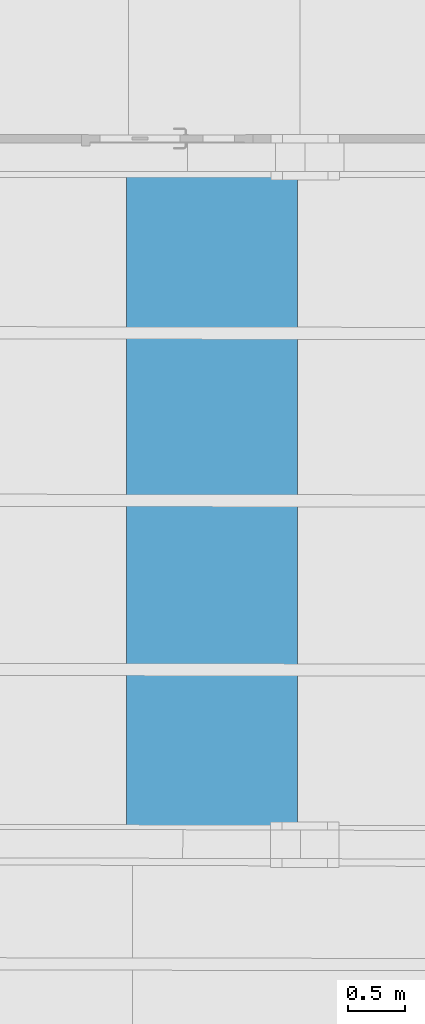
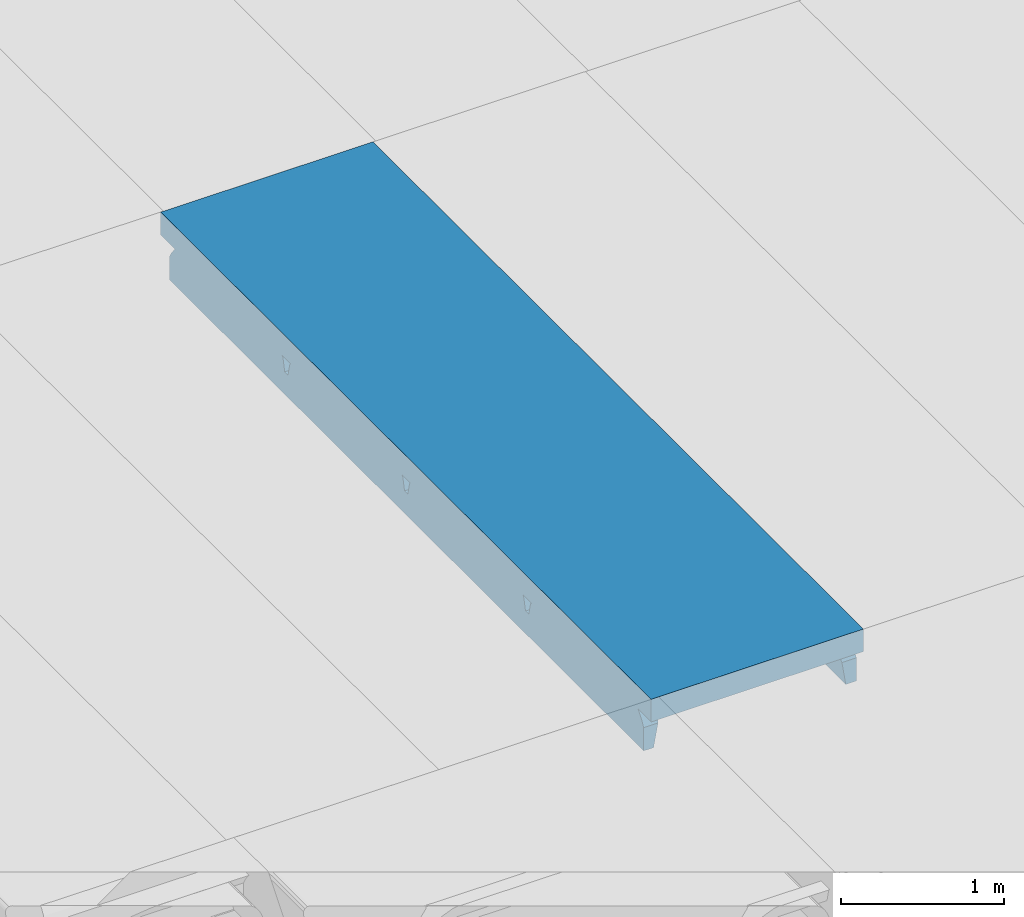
# One storey, part 33 of 301: 1 beam.
"""IFC2X3 building model written with IfcOpenShell, lengths in millimetres."""

from ifc_helpers import new_model, entity, si_unit, converted_unit, derived_unit, money_unit, direction, frame, origin_with_axes, place, context, subcontext, project, spatial, faceted_brep, material, type_object, element, save


model = new_model("IFC2X3")

# Units and contexts
model_context = context("Model", 3, precision=0.01, world=origin_with_axes(), true_north=direction((0.0, 1.0)))
body_context = subcontext(model_context, "Body", "Model", "MODEL_VIEW")
ifc_project = project(units=[si_unit("LENGTHUNIT", "METRE", prefix="MILLI"), si_unit("AREAUNIT", "SQUARE_METRE"), si_unit("VOLUMEUNIT", "CUBIC_METRE"), converted_unit("PLANEANGLEUNIT", "DEGREE", entity("IfcPlaneAngleMeasure", 0.0174532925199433), si_unit("PLANEANGLEUNIT", "RADIAN"), dimensions=[0, 0, 0, 0, 0, 0, 0]), money_unit("EUR"), converted_unit("TIMEUNIT", "Year", entity("IfcTimeMeasure", 31557600.0), si_unit("TIMEUNIT", "SECOND"), dimensions=[0, 0, 1, 0, 0, 0, 0]), si_unit("MASSUNIT", "GRAM", prefix="KILO"), si_unit("THERMODYNAMICTEMPERATUREUNIT", "DEGREE_CELSIUS"), si_unit("LUMINOUSINTENSITYUNIT", "LUMEN"), si_unit("ENERGYUNIT", "JOULE", prefix="MEGA"), derived_unit("THERMALCONDUCTANCEUNIT", [(si_unit("POWERUNIT", "WATT"), 1), (si_unit("LENGTHUNIT", "METRE"), -1), (si_unit("THERMODYNAMICTEMPERATUREUNIT", "KELVIN"), -1)]), derived_unit("SPECIFICHEATCAPACITYUNIT", [(si_unit("ENERGYUNIT", "JOULE"), 1), (si_unit("MASSUNIT", "GRAM", prefix="KILO"), -1), (si_unit("THERMODYNAMICTEMPERATUREUNIT", "KELVIN"), -1)]), derived_unit("MASSDENSITYUNIT", [(si_unit("MASSUNIT", "GRAM", prefix="KILO"), 1), (si_unit("VOLUMEUNIT", "CUBIC_METRE"), -1)])], contexts=[model_context])

# Site, building, storey
site_placement = place(None, frame((0.0, 0.0, 8650.0), z_axis=(0.0, 0.0, 1.0), x_axis=(1.0, 0.0, 0.0)))
site = spatial("IfcSite", under=ifc_project, at=site_placement, Name="43301:001:0844", CompositionType="ELEMENT")
building_placement = place(site_placement, origin_with_axes())
building = spatial("IfcBuilding", under=site, at=building_placement, Name="Kuressaare Ametikooli tuulikute mehaanikute õppekorpus", CompositionType="ELEMENT")
storey_placement = place(building_placement, origin_with_axes())
storey = spatial("IfcBuildingStorey", under=building, at=storey_placement, Name="1.korrus", CompositionType="ELEMENT", Elevation=0.0)

# Beam
ifc_material = material(Name="GENEERILINE - KONSTRUKTRIOON")
beam_type = type_object("IfcBeamType", Name="Precast Double Tee 2 1500 x 440", PredefinedType="NOTDEFINED")
beam_placement = place(storey_placement, frame((94955.87775377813, 50086.65261783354, 7100.0), z_axis=(0.0, 0.0, 1.0), x_axis=(-1.0, 0.0, 0.0)))
element("IfcBeam", 1, at=beam_placement, inside=storey, type_object=beam_type, material=ifc_material, context=body_context, shape_type="Brep", body=[
    faceted_brep([(-750.0, 177.0168148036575, -169.8234995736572), (-750.0, 0.9527585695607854, -169.8234995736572), (-750.0, 0.9527585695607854, 0.0), (-750.0, 6001.50033195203, 0.0), (-750.0, 6001.50033195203, -168.9999999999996), (-750.0, 5847.728794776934, -168.9999999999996), (-750.0, 5858.691405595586, -180.5328579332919), (-750.0, 5890.364064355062, -221.5483087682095), (-750.0, 5915.956201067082, -266.6089685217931), (-750.0, 5915.956726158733, -440.0001340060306), (-750.0, 108.789275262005, -440.0001340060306), (-750.0, 108.7897978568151, -267.4324680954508), (-750.0, 134.3817885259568, -222.3718083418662), (-750.0, 166.054266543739, -181.3563575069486), (-750.0, 1488.181398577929, -169.8234995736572), (-750.0, 1496.380189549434, -175.3977593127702), (-750.0, 1500.95482945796, -184.1935020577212), (-750.0, 1521.69577680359, -271.7709778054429), (-750.0, 1561.695830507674, -271.7709778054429), (-750.0, 1582.43581608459, -184.1936973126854), (-750.0, 1587.010435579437, -175.3978342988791), (-750.0, 1595.209293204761, -169.8234995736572), (-750.0, 2962.220889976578, -175.3977593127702), (-750.0, 2966.795529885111, -184.1935020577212), (-750.0, 2987.536477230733, -271.7709778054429), (-750.0, 3027.536530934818, -271.7709778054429), (-750.0, 3048.276516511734, -184.1936973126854), (-750.0, 3052.85113600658, -175.3978342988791), (-750.0, 3061.049993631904, -169.8234995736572), (-750.0, 2954.022099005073, -169.8234995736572), (-750.0, 4446.887829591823, -184.1935020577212), (-750.0, 4467.628776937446, -271.7709778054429), (-750.0, 4507.628830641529, -271.7709778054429), (-750.0, 4528.368816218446, -184.1936973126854), (-750.0, 4532.943435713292, -175.3978342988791), (-750.0, 4541.142293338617, -169.8234995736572), (-750.0, 4434.114398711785, -169.8234995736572), (-750.0, 4442.31318968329, -175.3977593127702), (-584.2531439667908, 0.9527585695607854, -169.8234995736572), (-604.2531439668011, 0.9527585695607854, -169.8234995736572), (-584.2531439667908, 176.9705397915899, -169.8234995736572), (729.9999999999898, 0.9527585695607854, -169.8234995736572), (729.9999999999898, 0.9527585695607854, 0.0), (566.8200850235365, 0.9527585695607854, -169.8234995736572), (586.8200850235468, 0.9527585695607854, -169.8234995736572), (729.9999999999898, 0.0, 0.0), (750.0, 0.0, 0.0), (750.0, 6001.50033195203, 0.0), (750.0, 6001.50033195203, -168.9999999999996), (750.0, 5842.644004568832, -168.9999999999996), (620.4148263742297, 5854.045891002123, -180.5328579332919), (620.1516209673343, 5853.763810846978, -180.2351660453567), (604.4404036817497, 5845.963875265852, -171.9734684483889), (586.8200850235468, 5843.979942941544, -169.8234995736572), (-584.2531439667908, 5847.949717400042, -169.8234995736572), (-604.310838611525, 5851.517931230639, -173.5057932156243), (-615.9100461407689, 5858.236859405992, -180.5328579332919), (750.0, 5853.606615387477, -180.5328579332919), (-621.7526411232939, 5860.989972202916, -184.072435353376), (-634.3038197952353, 5873.444223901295, -200.1453415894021), (-640.3274701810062, 5888.509641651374, -219.6283094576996), (-640.6295561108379, 5889.993313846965, -221.5483087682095), (-647.7192416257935, 5915.609483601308, -266.6089685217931), (-674.9999969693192, 5915.702486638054, -440.0001340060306), (-674.9999969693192, 108.7683359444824, -440.0001340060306), (-647.8488081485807, 108.7612781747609, -267.4324680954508), (-640.7591226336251, 134.3512894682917, -222.3718083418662), (-617.2693537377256, 166.0172093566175, -181.3563575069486), (-640.3274701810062, 136.4697219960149, -219.6283094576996), (-634.3038197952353, 151.5129528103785, -200.1453415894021), (-621.7526411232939, 163.9210827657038, -184.072435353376), (-604.310838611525, 173.4759386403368, -173.5057932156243), (-607.4338079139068, 1496.146572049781, -175.3977593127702), (-584.2531439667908, 1487.9097958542, -169.8234995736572), (-604.310838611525, 1493.358693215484, -173.5057932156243), (-621.847180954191, 1500.744830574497, -184.1935020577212), (-621.7526411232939, 1500.681709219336, -184.072435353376), (-634.3038197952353, 1504.543112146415, -200.1453415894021), (-640.3274701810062, 1509.167128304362, -219.6283094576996), (-648.5314139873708, 1521.5295043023, -271.7709778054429), (-648.5314139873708, 1561.529558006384, -271.7709778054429), (-640.3274701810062, 1573.864501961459, -219.6283094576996), (-634.3038197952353, 1578.468573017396, -200.1453415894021), (-621.8473334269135, 1582.225817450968, -184.1936973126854), (-607.4339316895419, 1586.776818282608, -175.3978342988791), (-621.7526411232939, 1582.288729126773, -184.072435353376), (-584.2531439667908, 1594.937690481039, -169.8234995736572), (-604.310838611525, 1589.554557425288, -173.5057932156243), (-607.4338079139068, 2961.987272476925, -175.3977593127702), (-621.7526411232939, 2966.52240964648, -184.072435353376), (-621.8471809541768, 2966.585531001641, -184.1935020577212), (-634.3038197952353, 2970.383812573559, -200.1453415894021), (-640.3274701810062, 2975.007828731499, -219.6283094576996), (-648.5314139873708, 2987.370204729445, -271.7709778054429), (-648.5314139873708, 3027.370258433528, -271.7709778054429), (-640.3274701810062, 3039.705202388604, -219.6283094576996), (-634.3038197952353, 3044.30927344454, -200.1453415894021), (-621.8473334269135, 3048.066517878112, -184.1936973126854), (-621.7526411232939, 3048.129429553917, -184.072435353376), (-607.4339316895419, 3052.617518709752, -175.3978342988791), (-604.310838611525, 3055.395257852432, -173.5057932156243), (-584.2531439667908, 3060.778390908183, -169.8234995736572), (-584.2531439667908, 2953.750496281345, -169.8234995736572), (-604.310838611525, 2959.199393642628, -173.5057932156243), (-621.8471809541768, 4446.677830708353, -184.1935020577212), (-634.3038197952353, 4450.47611228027, -200.1453415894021), (-640.3274701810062, 4455.100128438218, -219.6283094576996), (-648.5314139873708, 4467.462504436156, -271.7709778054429), (-648.5314139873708, 4507.46255814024, -271.7709778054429), (-640.3274701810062, 4519.797502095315, -219.6283094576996), (-634.3038197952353, 4524.401573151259, -200.1453415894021), (-621.8473334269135, 4528.158817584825, -184.1936973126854), (-621.7526411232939, 4528.221729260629, -184.072435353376), (-607.4339316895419, 4532.709818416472, -175.3978342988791), (-604.310838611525, 4535.487557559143, -173.5057932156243), (-584.2531439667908, 4540.870690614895, -169.8234995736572), (-584.2531439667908, 4433.842795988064, -169.8234995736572), (-604.310838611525, 4439.291693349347, -173.5057932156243), (-607.4338079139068, 4442.079572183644, -175.3977593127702), (-621.7526411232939, 4446.614709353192, -184.072435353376), (586.8200850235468, 4538.951699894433, -169.8234995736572), (586.8200850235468, 4431.923805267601, -169.8234995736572), (586.8200850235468, 3058.859400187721, -169.8234995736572), (586.8200850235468, 2951.83150556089, -169.8234995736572), (586.8200850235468, 1593.018699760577, -169.8234995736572), (586.8200850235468, 1485.990805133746, -169.8234995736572), (586.8200850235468, 176.6435868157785, -169.8234995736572), (729.9999999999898, 0.0, -169.8234995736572), (750.0, 176.5980284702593, -169.8234995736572), (750.0, 0.0, -169.8234995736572), (750.0, 165.6354802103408, -181.3563575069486), (750.0, 133.9630021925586, -222.3718083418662), (750.0, 108.3710115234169, -267.4324680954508), (750.0, 108.3704889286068, -440.0001340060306), (750.0, 5910.871935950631, -440.0001340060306), (750.0, 5910.871410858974, -266.6089685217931), (750.0, 5885.27927414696, -221.5483087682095), (750.0, 1485.723408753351, -169.8234995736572), (750.0, 1592.751303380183, -169.8234995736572), (750.0, 1584.552445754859, -175.3978342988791), (750.0, 1579.977826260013, -184.1936973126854), (750.0, 1559.237840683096, -271.7709778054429), (750.0, 1519.237786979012, -271.7709778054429), (750.0, 1498.49683963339, -184.1935020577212), (750.0, 1493.922199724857, -175.3977593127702), (750.0, 3058.592003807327, -169.8234995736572), (750.0, 3050.393146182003, -175.3978342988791), (750.0, 3045.818526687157, -184.1936973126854), (750.0, 3025.07854111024, -271.7709778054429), (750.0, 2985.078487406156, -271.7709778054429), (750.0, 2964.337540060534, -184.1935020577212), (750.0, 2959.762900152, -175.3977593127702), (750.0, 2951.564109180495, -169.8234995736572), (750.0, 4530.485445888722, -175.3978342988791), (750.0, 4525.910826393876, -184.1936973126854), (750.0, 4505.170840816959, -271.7709778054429), (750.0, 4465.170787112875, -271.7709778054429), (750.0, 4444.429839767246, -184.1935020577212), (750.0, 4439.855199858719, -175.3977593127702), (750.0, 4431.656408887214, -169.8234995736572), (750.0, 4538.684303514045, -169.8234995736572), (631.9095256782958, 5864.046304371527, -193.5336498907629), (631.9095256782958, 4523.892455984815, -193.5336498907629), (623.651571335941, 4526.117868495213, -184.1936973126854), (620.1516209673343, 4528.182386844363, -180.2351660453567), (604.4404036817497, 4535.760603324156, -171.9734684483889), (610.952498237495, 4530.713297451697, -175.3978342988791), (638.1842783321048, 5876.847615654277, -210.1386333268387), (640.2598926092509, 5885.651277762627, -221.5483087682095), (604.4404036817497, 4435.057171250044, -171.9734684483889), (604.4404036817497, 3055.668303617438, -171.9734684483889), (604.4404036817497, 2954.964871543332, -171.9734684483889), (604.4404036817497, 1589.827603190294, -171.9734684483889), (604.4404036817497, 174.5950163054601, -171.9734684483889), (604.4404036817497, 1489.124171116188, -171.9734684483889), (620.1516209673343, 166.7374802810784, -180.2351660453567), (621.1429266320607, 165.6714559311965, -181.3563575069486), (631.9095256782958, 156.2650418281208, -193.5336498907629), (638.1842783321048, 143.4407813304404, -210.1386333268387), (640.4097012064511, 133.9935988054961, -222.3718083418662), (648.6070026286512, 108.3993195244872, -267.4324680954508), (680.0000000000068, 108.3900322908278, -440.0001340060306), (680.0000000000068, 5911.109226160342, -440.0001340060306), (648.4571940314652, 5911.215626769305, -266.6089685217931), (610.952498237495, 1584.780297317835, -175.3978342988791), (620.1516209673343, 1582.249386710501, -180.2351660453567), (623.651571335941, 1580.18486836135, -184.1936973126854), (631.9095256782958, 1577.959455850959, -193.5336498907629), (638.1842783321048, 1574.016794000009, -210.1386333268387), (649.3962514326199, 1559.402696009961, -271.7709778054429), (649.3962514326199, 1519.402642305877, -271.7709778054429), (631.9095256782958, 1500.902374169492, -193.5336498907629), (623.651398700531, 1498.703882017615, -184.1935020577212), (638.1842783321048, 1504.82464523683, -210.1386333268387), (620.1516209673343, 1496.650898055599, -180.2351660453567), (610.9523556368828, 1494.150051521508, -175.3977593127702), (610.952498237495, 3050.620997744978, -175.3978342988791), (620.1516209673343, 3048.090087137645, -180.2351660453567), (623.651571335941, 3046.025568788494, -184.1936973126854), (631.9095256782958, 3043.800156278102, -193.5336498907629), (638.1842783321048, 3039.85749442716, -210.1386333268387), (649.3962514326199, 3025.243396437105, -271.7709778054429), (649.3962514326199, 2985.243342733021, -271.7709778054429), (623.651398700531, 2964.544582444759, -184.1935020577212), (638.1842783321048, 2970.665345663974, -210.1386333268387), (631.9095256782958, 2966.743074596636, -193.5336498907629), (620.1516209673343, 2962.491598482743, -180.2351660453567), (610.952355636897, 2959.990751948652, -175.3977593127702), (638.1842783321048, 4519.949794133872, -210.1386333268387), (649.3962514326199, 4505.335696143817, -271.7709778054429), (649.3962514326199, 4465.335642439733, -271.7709778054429), (638.1842783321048, 4450.757645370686, -210.1386333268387), (631.9095256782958, 4446.835374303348, -193.5336498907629), (623.651398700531, 4444.636882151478, -184.1935020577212), (610.952355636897, 4440.083051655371, -175.3977593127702), (620.1516209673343, 4442.583898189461, -180.2351660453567)], [[[0, 1, 2, 3, 4, 5, 6, 7, 8, 9, 10, 11, 12, 13], [14, 15, 16, 17, 18, 19, 20, 21], [22, 23, 24, 25, 26, 27, 28, 29], [30, 31, 32, 33, 34, 35, 36, 37]], [[38, 39, 1, 0, 40]], [[41, 42, 2, 1, 39, 38, 43, 44]], [[2, 42, 45, 46, 47, 3]], [[4, 3, 47, 48]], [[5, 4, 48, 49]], [[50, 51, 52, 53, 54, 55, 56, 6, 5, 49, 57]], [[7, 6, 56, 58, 59, 60, 61]], [[7, 61, 62, 8]], [[8, 62, 63, 9]], [[63, 64, 10, 9]], [[11, 10, 64, 65]], [[12, 11, 65, 66]], [[67, 13, 12, 66, 68, 69, 70]], [[67, 71, 40, 0, 13]], [[72, 15, 14, 73, 74]], [[75, 16, 15, 72, 76]], [[17, 16, 75, 77, 78, 79]], [[79, 80, 18, 17]], [[19, 18, 80, 81, 82, 83]], [[84, 20, 19, 83, 85]], [[86, 21, 20, 84, 87]], [[86, 73, 14, 21]], [[23, 22, 88, 89, 90]], [[23, 90, 91, 92, 93, 24]], [[94, 25, 24, 93]], [[25, 94, 95, 96, 97, 26]], [[27, 26, 97, 98, 99]], [[28, 27, 99, 100, 101]], [[102, 29, 28, 101]], [[22, 29, 102, 103, 88]], [[104, 105, 106, 107, 31, 30]], [[32, 31, 107, 108]], [[108, 109, 110, 111, 33, 32]], [[33, 111, 112, 113, 34]], [[34, 113, 114, 115, 35]], [[36, 35, 115, 116]], [[36, 116, 117, 118, 37]], [[37, 118, 119, 104, 30]], [[44, 43, 38, 40, 73, 86, 102, 101, 116, 115, 54, 53, 120, 121, 122, 123, 124, 125, 126]], [[41, 127, 45, 42]], [[127, 41, 44, 126, 128, 129]], [[46, 45, 127, 129]], [[57, 49, 48, 47, 46, 129, 128, 130, 131, 132, 133, 134, 135, 136], [137, 138, 139, 140, 141, 142, 143, 144], [145, 146, 147, 148, 149, 150, 151, 152], [153, 154, 155, 156, 157, 158, 159, 160]], [[51, 50, 161, 162, 163, 164]], [[165, 52, 51, 164, 166]], [[165, 120, 53, 52]], [[115, 114, 55, 54]], [[58, 56, 55, 114, 113, 112]], [[167, 161, 50, 57, 136, 168]], [[110, 59, 58, 112, 111]], [[110, 109, 60, 59]], [[63, 62, 61, 60, 109, 108, 107, 106, 95, 94, 93, 92, 81, 80, 79, 78, 68, 66, 65, 64]], [[69, 68, 78, 77]], [[77, 75, 76, 70, 69]], [[72, 74, 71, 67, 70, 76]], [[40, 71, 74, 73]], [[81, 92, 91, 82]], [[89, 85, 83, 82, 91, 90]], [[103, 87, 84, 85, 89, 88]], [[87, 103, 102, 86]], [[106, 105, 96, 95]], [[98, 97, 96, 105, 104, 119]], [[100, 99, 98, 119, 118, 117]], [[117, 116, 101, 100]], [[121, 120, 160, 159]], [[121, 169, 170, 122]], [[152, 123, 122, 145]], [[124, 123, 171, 172]], [[138, 137, 125, 124]], [[173, 126, 125, 174]], [[130, 128, 126, 173, 175, 176]], [[131, 130, 176, 177, 178, 179]], [[179, 180, 132, 131]], [[180, 181, 133, 132]], [[134, 133, 181, 182]], [[183, 135, 134, 182]], [[168, 136, 135, 183]], [[138, 124, 172, 184, 139]], [[139, 184, 185, 186, 140]], [[186, 187, 188, 189, 141, 140]], [[142, 141, 189, 190]], [[191, 192, 143, 142, 190, 193]], [[192, 194, 195, 144, 143]], [[195, 174, 125, 137, 144]], [[122, 170, 196, 146, 145]], [[196, 197, 198, 147, 146]], [[199, 200, 201, 148, 147, 198]], [[148, 201, 202, 149]], [[203, 150, 149, 202, 204, 205]], [[206, 207, 151, 150, 203]], [[171, 123, 152, 151, 207]], [[164, 163, 154, 153, 166]], [[208, 209, 155, 154, 163, 162]], [[209, 210, 156, 155]], [[157, 156, 210, 211, 212, 213]], [[214, 158, 157, 213, 215]], [[121, 159, 158, 214, 169]], [[165, 166, 153, 160, 120]], [[208, 162, 161, 167]], [[201, 200, 211, 210, 209, 208, 167, 168, 183, 182, 181, 180, 179, 178, 193, 190, 189, 188, 204, 202]], [[197, 196, 170, 169, 214, 215]], [[206, 185, 184, 172, 171, 207]], [[174, 195, 194, 175, 173]], [[192, 191, 177, 176, 175, 194]], [[178, 177, 191, 193]], [[205, 187, 186, 185, 206, 203]], [[187, 205, 204, 188]], [[199, 198, 197, 215, 213, 212]], [[212, 211, 200, 199]]]),
])

save(model, "model.ifc")
